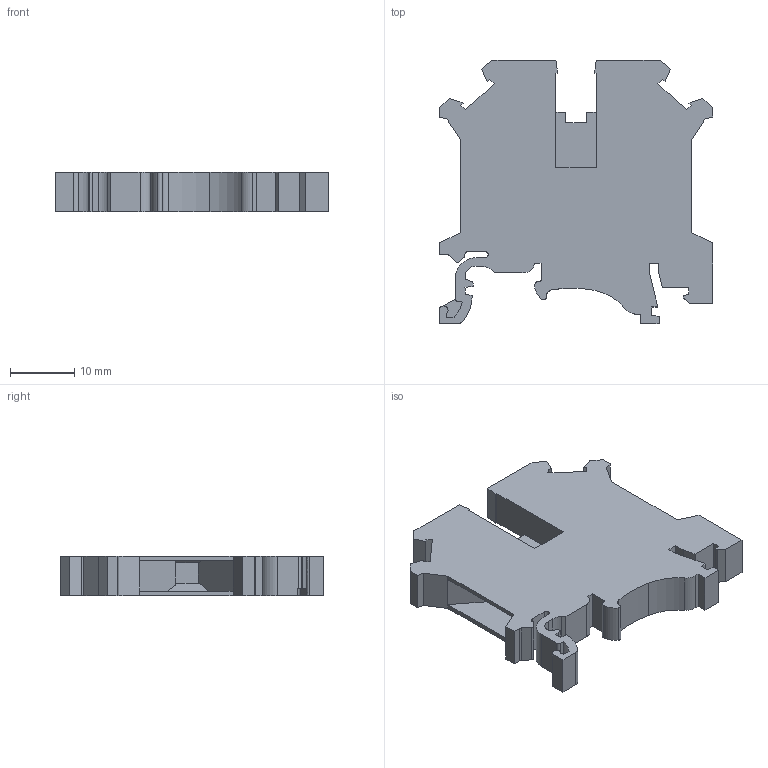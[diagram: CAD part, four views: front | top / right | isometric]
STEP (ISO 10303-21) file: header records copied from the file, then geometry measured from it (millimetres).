
FILE_DESCRIPTION(('FreeCAD Model'),'2;1');
FILE_NAME('Open CASCADE Shape Model','2022-01-17T11:36:51',('Author'),( ''),'Open CASCADE STEP processor 7.5','FreeCAD','Unknown');
FILE_SCHEMA(('AUTOMOTIVE_DESIGN { 1 0 10303 214 1 1 1 1 }'));
Length unit declared in the file: millimetre
Products named in the file (1): BS2,5C
Bounding box: 42.52 x 40.97 x 6.15 mm (x, y, z)
Volume: 6301.2 mm3; surface area: 4817.6 mm2
Topology: 1 solids, 1 shells, 172 faces, 499 edges, 331 vertices
Faces by surface type: bspline 172
Entity records: 10914 total; most frequent: CARTESIAN_POINT 4557, B_SPLINE_CURVE_WITH_KNOTS 1345, ORIENTED_EDGE 998, PCURVE 998, DEFINITIONAL_REPRESENTATION 998, EDGE_CURVE 499, SURFACE_CURVE 499, VERTEX_POINT 331
